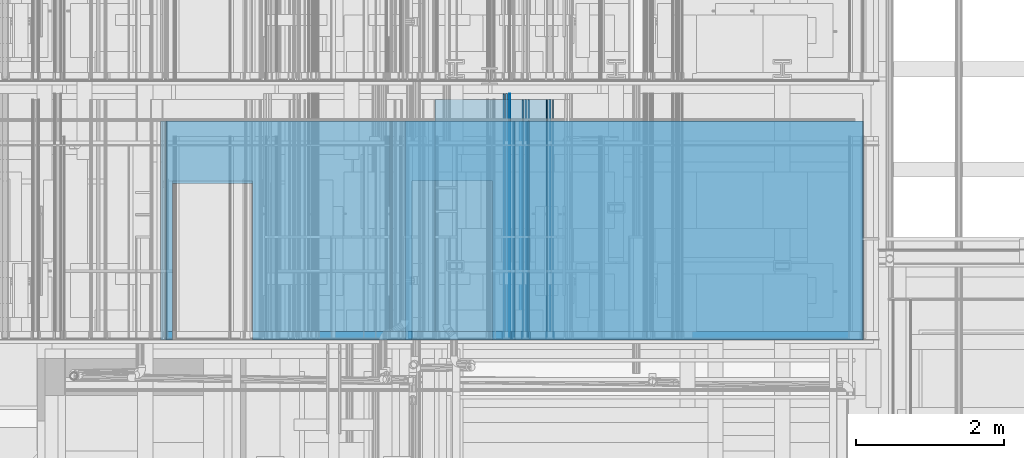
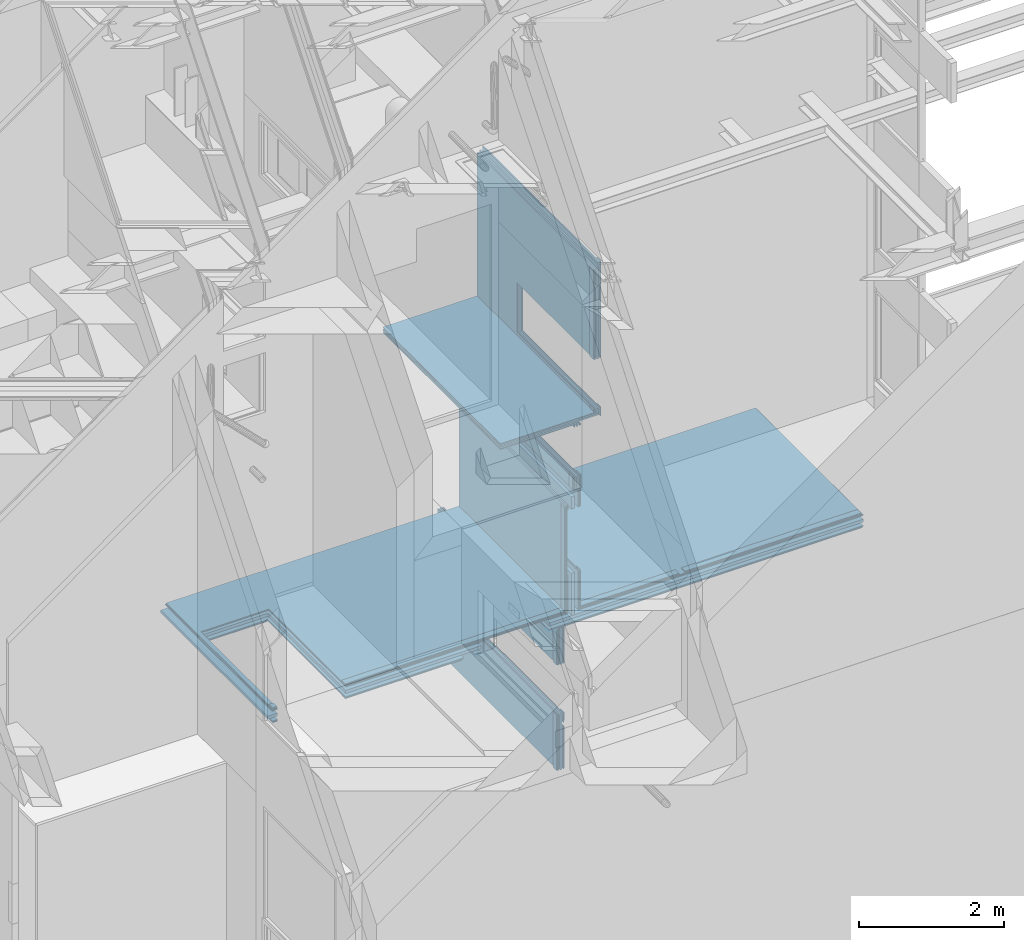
# One storey, part 99 of 583: 44 building element parts, 7 openings, 6 elements without a shape of their own.
"""IFC2X3 building model written with IfcOpenShell, lengths in metres."""

from ifc_helpers import new_model, entity, si_unit, converted_unit, derived_unit, money_unit, direction, frame, frame_2d, origin_with_axes, place, context, subcontext, project, spatial, polyline, rectangle, outline, extrude, material, type_object, element, aggregate, save


model = new_model("IFC2X3")

# Units and contexts
model_context = context("Model", 3, precision=1e-05, world=origin_with_axes(), true_north=direction((0.0, 1.0)))
body_context = subcontext(model_context, "Body", "Model", "MODEL_VIEW", scale=1.0)
ifc_project = project(units=[si_unit("LENGTHUNIT", "METRE"), si_unit("AREAUNIT", "SQUARE_METRE"), si_unit("VOLUMEUNIT", "CUBIC_METRE"), si_unit("ABSORBEDDOSEUNIT", "GRAY"), si_unit("AMOUNTOFSUBSTANCEUNIT", "MOLE"), si_unit("DOSEEQUIVALENTUNIT", "SIEVERT"), si_unit("ELECTRICCAPACITANCEUNIT", "FARAD"), si_unit("ELECTRICCHARGEUNIT", "COULOMB"), si_unit("ELECTRICCONDUCTANCEUNIT", "SIEMENS"), si_unit("ELECTRICCURRENTUNIT", "AMPERE"), si_unit("ELECTRICRESISTANCEUNIT", "OHM"), si_unit("ELECTRICVOLTAGEUNIT", "VOLT"), si_unit("ENERGYUNIT", "JOULE"), si_unit("FORCEUNIT", "NEWTON"), si_unit("FREQUENCYUNIT", "HERTZ"), si_unit("ILLUMINANCEUNIT", "LUX"), si_unit("INDUCTANCEUNIT", "HENRY"), si_unit("LUMINOUSFLUXUNIT", "LUMEN"), si_unit("LUMINOUSINTENSITYUNIT", "CANDELA"), si_unit("MAGNETICFLUXDENSITYUNIT", "TESLA"), si_unit("MAGNETICFLUXUNIT", "WEBER"), si_unit("MASSUNIT", "GRAM"), converted_unit("PLANEANGLEUNIT", "degree", entity("IfcReal", 0.0174532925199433), si_unit("PLANEANGLEUNIT", "RADIAN"), dimensions=[0, 0, 0, 0, 0, 0, 0]), si_unit("POWERUNIT", "WATT"), si_unit("PRESSUREUNIT", "PASCAL"), si_unit("RADIOACTIVITYUNIT", "BECQUEREL"), si_unit("SOLIDANGLEUNIT", "STERADIAN"), si_unit("THERMODYNAMICTEMPERATUREUNIT", "KELVIN"), si_unit("TIMEUNIT", "SECOND"), derived_unit("ACCELERATIONUNIT", [(si_unit("LENGTHUNIT", "METRE"), 1), (si_unit("TIMEUNIT", "SECOND"), -2)]), derived_unit("ANGULARVELOCITYUNIT", [(converted_unit("PLANEANGLEUNIT", "degree", entity("IfcReal", 0.0174532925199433), si_unit("PLANEANGLEUNIT", "RADIAN"), dimensions=[0, 0, 0, 0, 0, 0, 0]), 1), (si_unit("TIMEUNIT", "SECOND"), -1)]), derived_unit("CURVATUREUNIT", [(converted_unit("PLANEANGLEUNIT", "degree", entity("IfcReal", 0.0174532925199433), si_unit("PLANEANGLEUNIT", "RADIAN"), dimensions=[0, 0, 0, 0, 0, 0, 0]), 1), (si_unit("LENGTHUNIT", "METRE"), -1)]), derived_unit("DYNAMICVISCOSITYUNIT", [(si_unit("PRESSUREUNIT", "PASCAL"), 1), (si_unit("TIMEUNIT", "SECOND"), 1)]), derived_unit("HEATFLUXDENSITYUNIT", [(si_unit("POWERUNIT", "WATT"), 1), (si_unit("LENGTHUNIT", "METRE"), -2)]), derived_unit("HEATINGVALUEUNIT", [(si_unit("ENERGYUNIT", "JOULE"), 1), (si_unit("MASSUNIT", "GRAM"), -1)]), derived_unit("INTEGERCOUNTRATEUNIT", [(si_unit("TIMEUNIT", "SECOND"), -1)]), derived_unit("IONCONCENTRATIONUNIT", [(si_unit("MASSUNIT", "GRAM"), 1), (si_unit("VOLUMEUNIT", "CUBIC_METRE"), -1)]), derived_unit("ISOTHERMALMOISTURECAPACITYUNIT", [(si_unit("VOLUMEUNIT", "CUBIC_METRE"), 1), (si_unit("MASSUNIT", "GRAM"), -1)]), derived_unit("KINEMATICVISCOSITYUNIT", [(si_unit("AREAUNIT", "SQUARE_METRE"), 1), (si_unit("TIMEUNIT", "SECOND"), -1)]), derived_unit("LINEARFORCEUNIT", [(si_unit("FORCEUNIT", "NEWTON"), 1), (si_unit("LENGTHUNIT", "METRE"), -1)]), derived_unit("LINEARMOMENTUNIT", [(si_unit("FORCEUNIT", "NEWTON"), 1), (si_unit("LENGTHUNIT", "METRE"), -1)]), derived_unit("LINEARSTIFFNESSUNIT", [(si_unit("FORCEUNIT", "NEWTON"), 1), (si_unit("LENGTHUNIT", "METRE"), -1)]), derived_unit("LINEARVELOCITYUNIT", [(si_unit("LENGTHUNIT", "METRE"), 1), (si_unit("TIMEUNIT", "SECOND"), -1)]), derived_unit("LUMINOUSINTENSITYDISTRIBUTIONUNIT", [(si_unit("LUMINOUSINTENSITYUNIT", "CANDELA"), 1), (si_unit("LUMINOUSFLUXUNIT", "LUMEN"), -1)]), derived_unit("MASSDENSITYUNIT", [(si_unit("MASSUNIT", "GRAM"), 1), (si_unit("VOLUMEUNIT", "CUBIC_METRE"), -1)]), derived_unit("MASSFLOWRATEUNIT", [(si_unit("MASSUNIT", "GRAM"), 1), (si_unit("TIMEUNIT", "SECOND"), -1)]), derived_unit("MASSPERLENGTHUNIT", [(si_unit("MASSUNIT", "GRAM"), 1), (si_unit("LENGTHUNIT", "METRE"), -1)]), derived_unit("MODULUSOFELASTICITYUNIT", [(si_unit("FORCEUNIT", "NEWTON"), 1), (si_unit("AREAUNIT", "SQUARE_METRE"), -1)]), derived_unit("MODULUSOFLINEARSUBGRADEREACTIONUNIT", [(si_unit("FORCEUNIT", "NEWTON"), 1), (si_unit("LENGTHUNIT", "METRE"), -2)]), derived_unit("MODULUSOFROTATIONALSUBGRADEREACTIONUNIT", [(si_unit("FORCEUNIT", "NEWTON"), 1), (si_unit("LENGTHUNIT", "METRE"), 1)]), derived_unit("MODULUSOFSUBGRADEREACTIONUNIT", [(si_unit("FORCEUNIT", "NEWTON"), 1), (si_unit("VOLUMEUNIT", "CUBIC_METRE"), -1)]), derived_unit("MOISTUREDIFFUSIVITYUNIT", [(si_unit("VOLUMEUNIT", "CUBIC_METRE"), 1), (si_unit("TIMEUNIT", "SECOND"), -1)]), derived_unit("MOLECULARWEIGHTUNIT", [(si_unit("MASSUNIT", "GRAM"), 1), (si_unit("AMOUNTOFSUBSTANCEUNIT", "MOLE"), -1)]), derived_unit("PLANARFORCEUNIT", [(si_unit("FORCEUNIT", "NEWTON"), 1), (si_unit("LENGTHUNIT", "METRE"), -2)]), derived_unit("ROTATIONALFREQUENCYUNIT", [(si_unit("TIMEUNIT", "SECOND"), -1)]), derived_unit("ROTATIONALMASSUNIT", [(si_unit("MASSUNIT", "GRAM"), 1), (si_unit("LENGTHUNIT", "METRE"), 2)]), derived_unit("ROTATIONALSTIFFNESSUNIT", [(si_unit("FORCEUNIT", "NEWTON"), 1), (si_unit("LENGTHUNIT", "METRE"), 1), (converted_unit("PLANEANGLEUNIT", "degree", entity("IfcReal", 0.0174532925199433), si_unit("PLANEANGLEUNIT", "RADIAN"), dimensions=[0, 0, 0, 0, 0, 0, 0]), -1)]), derived_unit("SECTIONAREAINTEGRALUNIT", [(si_unit("LENGTHUNIT", "METRE"), 5)]), derived_unit("SECTIONMODULUSUNIT", [(si_unit("LENGTHUNIT", "METRE"), 3)]), derived_unit("SHEARMODULUSUNIT", [(si_unit("FORCEUNIT", "NEWTON"), 1), (si_unit("AREAUNIT", "SQUARE_METRE"), -1)]), derived_unit("SOUNDPOWERUNIT", [(si_unit("ENERGYUNIT", "JOULE"), 1), (si_unit("TIMEUNIT", "SECOND"), -1)]), derived_unit("SPECIFICHEATCAPACITYUNIT", [(si_unit("FORCEUNIT", "NEWTON"), 1), (si_unit("MASSUNIT", "GRAM"), -1), (si_unit("THERMODYNAMICTEMPERATUREUNIT", "KELVIN"), -1)]), derived_unit("TEMPERATUREGRADIENTUNIT", [(si_unit("THERMODYNAMICTEMPERATUREUNIT", "KELVIN"), 1), (si_unit("LENGTHUNIT", "METRE"), -1)]), derived_unit("THERMALADMITTANCEUNIT", [(si_unit("POWERUNIT", "WATT"), 1), (si_unit("AREAUNIT", "SQUARE_METRE"), -1), (si_unit("THERMODYNAMICTEMPERATUREUNIT", "KELVIN"), -1)]), derived_unit("THERMALCONDUCTANCEUNIT", [(si_unit("POWERUNIT", "WATT"), 1), (si_unit("LENGTHUNIT", "METRE"), -1), (si_unit("THERMODYNAMICTEMPERATUREUNIT", "KELVIN"), -1)]), derived_unit("THERMALEXPANSIONCOEFFICIENTUNIT", [(si_unit("THERMODYNAMICTEMPERATUREUNIT", "KELVIN"), -1)]), derived_unit("THERMALRESISTANCEUNIT", [(si_unit("AREAUNIT", "SQUARE_METRE"), 1), (si_unit("POWERUNIT", "WATT"), -1)]), derived_unit("THERMALTRANSMITTANCEUNIT", [(si_unit("POWERUNIT", "WATT"), 1), (si_unit("AREAUNIT", "SQUARE_METRE"), -1), (si_unit("THERMODYNAMICTEMPERATUREUNIT", "KELVIN"), -1)]), derived_unit("TORQUEUNIT", [(si_unit("FORCEUNIT", "NEWTON"), 1), (si_unit("LENGTHUNIT", "METRE"), 1)]), derived_unit("VAPORPERMEABILITYUNIT", [(si_unit("MASSUNIT", "GRAM"), 1), (si_unit("TIMEUNIT", "SECOND"), -1)]), derived_unit("VOLUMETRICFLOWRATEUNIT", [(si_unit("VOLUMEUNIT", "CUBIC_METRE"), 1), (si_unit("TIMEUNIT", "SECOND"), -1)]), derived_unit("WARPINGCONSTANTUNIT", [(si_unit("LENGTHUNIT", "METRE"), 6)]), derived_unit("WARPINGMOMENTUNIT", [(si_unit("FORCEUNIT", "NEWTON"), 1), (si_unit("LENGTHUNIT", "METRE"), 2)]), money_unit("GBP")], contexts=[model_context])

# Site, building, storey
site_placement = place(None, origin_with_axes())
site = spatial("IfcSite", under=ifc_project, at=site_placement, Name="Site", CompositionType="ELEMENT")
building_placement = place(site_placement, origin_with_axes())
building = spatial("IfcBuilding", under=site, at=building_placement, Name="Building01", CompositionType="ELEMENT")
storey_placement = place(building_placement, frame((0.0, 0.0, 20.78), z_axis=(0.0, 0.0, 1.0), x_axis=(1.0, 0.0, 0.0)))
storey = spatial("IfcBuildingStorey", under=building, at=storey_placement, Name="RL", CompositionType="ELEMENT", Elevation=20.78)

# Wall, opening, building element parts
wall_type_1 = type_object("IfcWallType", Name="SHE_A-Walls_Type05a_Partition_95mm_tall", PredefinedType="NOTDEFINED")
wall_1_placement = place(storey_placement, frame((10.355, 5.15, -10.326129), z_axis=(0.0, 1.0, 0.0), x_axis=(0.0, 0.0, 1.0)))
wall_1 = element("IfcWall", 1, at=wall_1_placement, inside=storey, type_object=wall_type_1, Name="5A", ObjectType="SHE_A-Walls_Type05a_Partition_95mm_tall")
opening_1_placement = place(wall_1_placement, frame((0.086065, -0.035, 0.0), z_axis=(0.0, 0.0, 1.0), x_axis=(1.0, 0.0, 0.0)))
element("IfcOpeningElement", 2, at=opening_1_placement, cuts=wall_1, Name="Opening", ObjectType="Opening", context=body_context, shape_type="SweptSolid", body=[
    extrude(rectangle(XDim=2.142, YDim=0.834, at=frame_2d((0.417, 1.071), x_axis=(0.0, -1.0))), frame((0.0, 4.622002, 0.0), z_axis=(0.0, -1.0, 0.0), x_axis=(1.0, 0.0, 0.0)), (0.0, 0.0, 1.0), 9.244005),
])
ifc_material_1 = material(Name="A_BSUK_Insulation")
placement_1 = place(wall_1_placement, origin_with_axes())
building_element_part_1 = element("IfcBuildingElementPart", 3, at=placement_1, material=ifc_material_1, Name="1", context=body_context, shape_type="SweptSolid", body=[
    extrude(rectangle(XDim=2.474714, YDim=0.025, at=frame_2d((1.237357, 0.0125), x_axis=(-1.0, 0.0))), origin_with_axes(), (0.0, 0.0, 1.0), 3.24),
])
ifc_material_2 = material(Name="A_BSUK_Walls_Timber")
building_element_part_2 = element("IfcBuildingElementPart", 4, at=placement_1, material=ifc_material_2, Name="2", context=body_context, shape_type="SweptSolid", body=[
    extrude(outline(polyline([(2.549714, 0.075), (-0.075, 0.075), (-0.06, 0.06), (2.534714, 0.06), (2.549714, 0.075)])), frame((0.0, 0.0, 0.015), z_axis=(0.0, 0.0, 1.0), x_axis=(1.0, 0.0, 0.0)), (0.0, 0.0, 1.0), 0.1),
])
building_element_part_3 = element("IfcBuildingElementPart", 5, at=placement_1, material=ifc_material_2, Name="3", context=body_context, shape_type="SweptSolid", body=[
    extrude(outline(polyline([(2.439714, -0.035), (0.035, -0.035), (0.05, -0.05), (2.424714, -0.05), (2.439714, -0.035)])), frame((0.0, 0.0, 0.015), z_axis=(0.0, 0.0, 1.0), x_axis=(1.0, 0.0, 0.0)), (0.0, 0.0, 1.0), 0.1),
])
ifc_material_3 = material(Name="A_BSUK_WallInternal_Finishes_Plasterboard")
building_element_part_4 = element("IfcBuildingElementPart", 6, at=placement_1, material=ifc_material_3, Name="4", context=body_context, shape_type="SweptSolid", body=[
    extrude(outline(polyline([(2.534714, 0.06), (-0.06, 0.06), (-0.048, 0.048), (2.522714, 0.048), (2.534714, 0.06)])), origin_with_axes(), (0.0, 0.0, 1.0), 3.24),
])
building_element_part_5 = element("IfcBuildingElementPart", 7, at=placement_1, material=ifc_material_3, Name="5", context=body_context, shape_type="SweptSolid", body=[
    extrude(outline(polyline([(2.451714, -0.023), (0.023, -0.023), (0.035, -0.035), (2.439714, -0.035), (2.451714, -0.023)])), origin_with_axes(), (0.0, 0.0, 1.0), 3.24),
])
aggregate(wall_1, [building_element_part_1, building_element_part_2, building_element_part_3, building_element_part_4, building_element_part_5])

# Wall, openings, building element parts
wall_type_2 = type_object("IfcWallType", Name="SHE_A-Walls_Type01c_Partywall_225mm_twin_tall", PredefinedType="NOTDEFINED")
wall_2_placement = place(storey_placement, frame((5.117, 5.15, -13.578331), z_axis=(0.0, 1.0, 0.0), x_axis=(1.0, 0.0, 0.0)))
wall_2 = element("IfcWall", 8, at=wall_2_placement, inside=storey, type_object=wall_type_2, Name="1C", ObjectType="SHE_A-Walls_Type01c_Partywall_225mm_twin_tall")
opening_2_placement = place(wall_2_placement, frame((0.157475, -0.225, -0.03), z_axis=(0.0, 0.0, 1.0), x_axis=(1.0, 0.0, 0.0)))
element("IfcOpeningElement", 9, at=opening_2_placement, cuts=wall_2, Name="Opening", ObjectType="Opening", context=body_context, shape_type="SweptSolid", body=[
    extrude(rectangle(XDim=1.084, YDim=2.142, at=frame_2d((-0.542, 1.071), x_axis=(-1.0, 0.0))), frame((0.0, -0.4125, 0.0), z_axis=(0.0, 1.0, 0.0), x_axis=(-1.0, 0.0, 0.0)), (0.0, 0.0, 1.0), 0.825),
])
opening_3_placement = place(wall_2_placement, frame((3.391704, 0.137, 0.0), z_axis=(0.0, 0.0, 1.0), x_axis=(1.0, 0.0, 0.0)))
element("IfcOpeningElement", 10, at=opening_3_placement, cuts=wall_2, Name="Opening", ObjectType="Opening", context=body_context, shape_type="SweptSolid", body=[
    extrude(rectangle(XDim=2.142, YDim=1.084, at=frame_2d((-0.542, 1.071), x_axis=(0.0, -1.0))), frame((0.0, -0.2055, 0.0), z_axis=(0.0, 1.0, 0.0), x_axis=(-1.0, 0.0, 0.0)), (0.0, 0.0, 1.0), 0.411),
])
opening_4_placement = place(wall_2_placement, frame((0.157475, 0.137, 0.0), z_axis=(0.0, 0.0, 1.0), x_axis=(1.0, 0.0, 0.0)))
element("IfcOpeningElement", 11, at=opening_4_placement, cuts=wall_2, Name="Opening", ObjectType="Opening", context=body_context, shape_type="SweptSolid", body=[
    extrude(rectangle(XDim=2.142, YDim=1.084, at=frame_2d((-0.542, 1.071), x_axis=(0.0, -1.0))), frame((0.0, -0.2055, 0.0), z_axis=(0.0, 1.0, 0.0), x_axis=(-1.0, 0.0, 0.0)), (0.0, 0.0, 1.0), 0.411),
])
placement_2 = place(wall_2_placement, origin_with_axes())
building_element_part_6 = element("IfcBuildingElementPart", 12, at=placement_2, material=ifc_material_1, Name="1", context=body_context, shape_type="SweptSolid", body=[
    extrude(rectangle(XDim=9.477, YDim=0.05, at=frame_2d((4.7385, 0.025), x_axis=(-1.0, 0.0))), origin_with_axes(), (0.0, 0.0, 1.0), 2.95),
])
building_element_part_7 = element("IfcBuildingElementPart", 13, at=placement_2, material=ifc_material_2, Name="2", context=body_context, shape_type="SweptSolid", body=[
    extrude(rectangle(XDim=1.906475, YDim=0.015, at=frame_2d((1.041238, 0.1445), x_axis=(-1.0, 0.0))), frame((0.0, 0.0, 0.015), z_axis=(0.0, 0.0, 1.0), x_axis=(1.0, 0.0, 0.0)), (0.0, 0.0, 1.0), 0.1),
])
building_element_part_8 = element("IfcBuildingElementPart", 14, at=placement_2, material=ifc_material_3, Name="3", context=body_context, shape_type="SweptSolid", body=[
    extrude(rectangle(XDim=3.00567, YDim=0.015, at=frame_2d((1.590835, 0.1295), x_axis=(-1.0, 0.0))), origin_with_axes(), (0.0, 0.0, 1.0), 2.95),
])
building_element_part_9 = element("IfcBuildingElementPart", 15, at=placement_2, material=ifc_material_3, Name="4", context=body_context, shape_type="SweptSolid", body=[
    extrude(outline(polyline([(3.10867, 0.122), (0.073, 0.122), (0.073, 0.107), (3.12367, 0.107), (3.10867, 0.122)])), origin_with_axes(), (0.0, 0.0, 1.0), 2.95),
])
building_element_part_10 = element("IfcBuildingElementPart", 16, at=placement_2, material=ifc_material_3, Name="5", context=body_context, shape_type="SweptSolid", body=[
    extrude(rectangle(XDim=4.702704, YDim=0.015, at=frame_2d((2.424352, -0.0655), x_axis=(-1.0, 0.0))), origin_with_axes(), (0.0, 0.0, 1.0), 2.95),
])
building_element_part_11 = element("IfcBuildingElementPart", 17, at=placement_2, material=ifc_material_3, Name="6", context=body_context, shape_type="SweptSolid", body=[
    extrude(rectangle(XDim=4.672704, YDim=0.015, at=frame_2d((2.424352, -0.0805), x_axis=(-1.0, 0.0))), origin_with_axes(), (0.0, 0.0, 1.0), 2.95),
])
building_element_part_12 = element("IfcBuildingElementPart", 18, at=placement_2, material=ifc_material_2, Name="7", context=body_context, shape_type="SweptSolid", body=[
    extrude(rectangle(XDim=4.657704, YDim=0.015, at=frame_2d((2.416852, -0.0955), x_axis=(-1.0, 0.0))), frame((0.0, 0.0, 0.015), z_axis=(0.0, 0.0, 1.0), x_axis=(1.0, 0.0, 0.0)), (0.0, 0.0, 1.0), 0.1),
])
building_element_part_13 = element("IfcBuildingElementPart", 19, at=placement_2, material=ifc_material_3, Name="8", context=body_context, shape_type="SweptSolid", body=[
    extrude(outline(polyline([(9.465, 0.137), (3.31867, 0.137), (3.30367, 0.122), (9.465, 0.122), (9.465, 0.137)])), origin_with_axes(), (0.0, 0.0, 1.0), 2.95),
])
building_element_part_14 = element("IfcBuildingElementPart", 20, at=placement_2, material=ifc_material_2, Name="9", context=body_context, shape_type="SweptSolid", body=[
    extrude(rectangle(XDim=1.27, YDim=0.015, at=frame_2d((3.96867, 0.1445), x_axis=(-1.0, 0.0))), frame((0.0, 0.0, 0.015), z_axis=(0.0, 0.0, 1.0), x_axis=(1.0, 0.0, 0.0)), (0.0, 0.0, 1.0), 0.1),
])
building_element_part_15 = element("IfcBuildingElementPart", 21, at=placement_2, material=ifc_material_3, Name="10", context=body_context, shape_type="SweptSolid", body=[
    extrude(outline(polyline([(9.477, 0.122), (3.30367, 0.122), (3.28867, 0.107), (9.477, 0.107), (9.477, 0.122)])), origin_with_axes(), (0.0, 0.0, 1.0), 2.95),
])
building_element_part_16 = element("IfcBuildingElementPart", 22, at=placement_2, material=ifc_material_2, Name="11", context=body_context, shape_type="SweptSolid", body=[
    extrude(rectangle(XDim=1.56542, YDim=0.015, at=frame_2d((5.768414, -0.0955), x_axis=(-1.0, 0.0))), frame((0.0, 0.0, 0.015), z_axis=(0.0, 0.0, 1.0), x_axis=(1.0, 0.0, 0.0)), (0.0, 0.0, 1.0), 0.1),
])
building_element_part_17 = element("IfcBuildingElementPart", 23, at=placement_2, material=ifc_material_3, Name="12", context=body_context, shape_type="SweptSolid", body=[
    extrude(rectangle(XDim=4.494296, YDim=0.015, at=frame_2d((7.217852, -0.0805), x_axis=(-1.0, 0.0))), origin_with_axes(), (0.0, 0.0, 1.0), 2.95),
])
building_element_part_18 = element("IfcBuildingElementPart", 24, at=placement_2, material=ifc_material_3, Name="13", context=body_context, shape_type="SweptSolid", body=[
    extrude(rectangle(XDim=4.521296, YDim=0.015, at=frame_2d((7.216352, -0.0655), x_axis=(-1.0, 0.0))), origin_with_axes(), (0.0, 0.0, 1.0), 2.95),
])
building_element_part_19 = element("IfcBuildingElementPart", 25, at=placement_2, material=ifc_material_2, Name="14", context=body_context, shape_type="SweptSolid", body=[
    extrude(rectangle(XDim=2.45633, YDim=0.015, at=frame_2d((8.221835, 0.1445), x_axis=(-1.0, 0.0))), frame((0.0, 0.0, 0.015), z_axis=(0.0, 0.0, 1.0), x_axis=(1.0, 0.0, 0.0)), (0.0, 0.0, 1.0), 0.1),
])
building_element_part_20 = element("IfcBuildingElementPart", 26, at=placement_2, material=ifc_material_2, Name="15", context=body_context, shape_type="SweptSolid", body=[
    extrude(rectangle(XDim=2.17, YDim=0.015, at=frame_2d((5.81367, 0.1445), x_axis=(-1.0, 0.0))), frame((0.0, 0.0, 0.015), z_axis=(0.0, 0.0, 1.0), x_axis=(1.0, 0.0, 0.0)), (0.0, 0.0, 1.0), 0.1),
])
building_element_part_21 = element("IfcBuildingElementPart", 27, at=placement_2, material=ifc_material_2, Name="16", context=body_context, shape_type="SweptSolid", body=[
    extrude(rectangle(XDim=1.004195, YDim=0.015, at=frame_2d((2.591572, 0.1445), x_axis=(-1.0, 0.0))), frame((0.0, 0.0, 0.015), z_axis=(0.0, 0.0, 1.0), x_axis=(1.0, 0.0, 0.0)), (0.0, 0.0, 1.0), 0.1),
])
building_element_part_22 = element("IfcBuildingElementPart", 28, at=placement_2, material=ifc_material_2, Name="17", context=body_context, shape_type="SweptSolid", body=[
    extrude(rectangle(XDim=2.803876, YDim=0.015, at=frame_2d((8.048062, -0.0955), x_axis=(-1.0, 0.0))), frame((0.0, 0.0, 0.015), z_axis=(0.0, 0.0, 1.0), x_axis=(1.0, 0.0, 0.0)), (0.0, 0.0, 1.0), 0.1),
])
aggregate(wall_2, [building_element_part_6, building_element_part_7, building_element_part_8, building_element_part_9, building_element_part_10, building_element_part_11, building_element_part_12, building_element_part_13, building_element_part_14, building_element_part_15, building_element_part_16, building_element_part_17, building_element_part_18, building_element_part_19, building_element_part_20, building_element_part_21, building_element_part_22])

# Wall, opening, building element parts
wall_3_placement = place(storey_placement, frame((9.949704, 5.15, -11.583), z_axis=(0.0, 1.0, 0.0), x_axis=(0.0, 0.0, -1.0)))
wall_3 = element("IfcWall", 29, at=wall_3_placement, inside=storey, type_object=wall_type_2, Name="1C", ObjectType="SHE_A-Walls_Type01c_Partywall_225mm_twin_tall")
opening_5_placement = place(wall_3_placement, frame((0.200331, -0.138, 0.0), z_axis=(0.0, 0.0, 1.0), x_axis=(1.0, 0.0, 0.0)))
element("IfcOpeningElement", 30, at=opening_5_placement, cuts=wall_3, Name="Opening", ObjectType="Opening", context=body_context, shape_type="SweptSolid", body=[
    extrude(rectangle(XDim=2.142, YDim=1.084, at=frame_2d((0.542, 1.071), x_axis=(0.0, -1.0))), frame((0.0, 0.207, 0.0), z_axis=(0.0, -1.0, 0.0), x_axis=(1.0, 0.0, 0.0)), (0.0, 0.0, 1.0), 0.414),
])
placement_3 = place(wall_3_placement, origin_with_axes())
building_element_part_23 = element("IfcBuildingElementPart", 31, at=placement_3, material=ifc_material_1, Name="1", context=body_context, shape_type="SweptSolid", body=[
    extrude(rectangle(XDim=1.995331, YDim=0.05, at=frame_2d((0.997666, -0.025), x_axis=(-1.0, 0.0))), origin_with_axes(), (0.0, 0.0, 1.0), 2.95),
])
building_element_part_24 = element("IfcBuildingElementPart", 32, at=placement_3, material=ifc_material_2, Name="2", context=body_context, shape_type="SweptSolid", body=[
    extrude(outline(polyline([(1.892331, 0.102), (0.152, 0.102), (0.137, 0.087), (1.892331, 0.087), (1.892331, 0.102)])), frame((0.0, 0.0, 0.015), z_axis=(0.0, 0.0, 1.0), x_axis=(1.0, 0.0, 0.0)), (0.0, 0.0, 1.0), 0.1),
])
building_element_part_25 = element("IfcBuildingElementPart", 33, at=placement_3, material=ifc_material_3, Name="3", context=body_context, shape_type="SweptSolid", body=[
    extrude(outline(polyline([(1.907331, 0.087), (0.137, 0.087), (0.122, 0.072), (1.907331, 0.072), (1.907331, 0.087)])), origin_with_axes(), (0.0, 0.0, 1.0), 2.95),
])
building_element_part_26 = element("IfcBuildingElementPart", 34, at=placement_3, material=ifc_material_3, Name="4", context=body_context, shape_type="SweptSolid", body=[
    extrude(outline(polyline([(1.922331, 0.072), (0.122, 0.072), (0.107, 0.057), (1.922331, 0.057), (1.922331, 0.072)])), origin_with_axes(), (0.0, 0.0, 1.0), 2.95),
])
building_element_part_27 = element("IfcBuildingElementPart", 35, at=placement_3, material=ifc_material_3, Name="5", context=body_context, shape_type="SweptSolid", body=[
    extrude(rectangle(XDim=2.010331, YDim=0.015, at=frame_2d((0.932166, -0.1155), x_axis=(-1.0, 0.0))), origin_with_axes(), (0.0, 0.0, 1.0), 2.95),
])
building_element_part_28 = element("IfcBuildingElementPart", 36, at=placement_3, material=ifc_material_3, Name="6", context=body_context, shape_type="SweptSolid", body=[
    extrude(rectangle(XDim=2.010331, YDim=0.015, at=frame_2d((0.917166, -0.1305), x_axis=(-1.0, 0.0))), origin_with_axes(), (0.0, 0.0, 1.0), 2.95),
])
building_element_part_29 = element("IfcBuildingElementPart", 37, at=placement_3, material=ifc_material_2, Name="7", context=body_context, shape_type="SweptSolid", body=[
    extrude(outline(polyline([(1.907331, -0.138), (-0.088, -0.138), (-0.103, -0.153), (1.907331, -0.153), (1.907331, -0.138)])), frame((0.0, 0.0, 0.015), z_axis=(0.0, 0.0, 1.0), x_axis=(1.0, 0.0, 0.0)), (0.0, 0.0, 1.0), 0.1),
])
aggregate(wall_3, [building_element_part_23, building_element_part_24, building_element_part_25, building_element_part_26, building_element_part_27, building_element_part_28, building_element_part_29])

wall_4_placement = place(storey_placement, frame((10.052704, 5.15, -10.351129), z_axis=(0.0, 1.0, 0.0), x_axis=(0.0, 0.0, -1.0)))
wall_4 = element("IfcWall", 38, at=wall_4_placement, inside=storey, type_object=wall_type_1, Name="5A", ObjectType="SHE_A-Walls_Type05a_Partition_95mm_tall")
opening_6_placement = place(wall_4_placement, frame((0.077, -0.035, 0.0), z_axis=(0.0, 0.0, 1.0), x_axis=(1.0, 0.0, 0.0)))
element("IfcOpeningElement", 39, at=opening_6_placement, cuts=wall_4, Name="Opening", ObjectType="Opening", context=body_context, shape_type="SweptSolid", body=[
    extrude(rectangle(XDim=2.142, YDim=0.834, at=frame_2d((0.417, 1.071), x_axis=(0.0, -1.0))), frame((0.0, 3.762218, 0.0), z_axis=(0.0, -1.0, 0.0), x_axis=(1.0, 0.0, 0.0)), (0.0, 0.0, 1.0), 7.524435),
])
placement_4 = place(wall_4_placement, origin_with_axes())
building_element_part_30 = element("IfcBuildingElementPart", 40, at=placement_4, material=ifc_material_1, Name="1", context=body_context, shape_type="SweptSolid", body=[
    extrude(rectangle(XDim=1.143871, YDim=0.025, at=frame_2d((0.571935, 0.0125), x_axis=(-1.0, 0.0))), origin_with_axes(), (0.0, 0.0, 1.0), 3.24),
])
building_element_part_31 = element("IfcBuildingElementPart", 41, at=placement_4, material=ifc_material_2, Name="2", context=body_context, shape_type="SweptSolid", body=[
    extrude(outline(polyline([(1.128871, 0.075), (0.25, 0.075), (0.235, 0.06), (1.128871, 0.06), (1.128871, 0.075)])), frame((0.0, 0.0, 0.015), z_axis=(0.0, 0.0, 1.0), x_axis=(1.0, 0.0, 0.0)), (0.0, 0.0, 1.0), 0.1),
])
building_element_part_32 = element("IfcBuildingElementPart", 42, at=placement_4, material=ifc_material_2, Name="3", context=body_context, shape_type="SweptSolid", body=[
    extrude(rectangle(XDim=0.015, YDim=1.093871, at=frame_2d((0.596935, -0.0425), x_axis=(0.0, -1.0))), frame((0.0, 0.0, 0.015), z_axis=(0.0, 0.0, 1.0), x_axis=(1.0, 0.0, 0.0)), (0.0, 0.0, 1.0), 0.1),
])
building_element_part_33 = element("IfcBuildingElementPart", 43, at=placement_4, material=ifc_material_3, Name="4", context=body_context, shape_type="SweptSolid", body=[
    extrude(rectangle(XDim=1.108871, YDim=0.012, at=frame_2d((0.589435, 0.054), x_axis=(-1.0, 0.0))), origin_with_axes(), (0.0, 0.0, 1.0), 3.24),
])
building_element_part_34 = element("IfcBuildingElementPart", 44, at=placement_4, material=ifc_material_3, Name="5", context=body_context, shape_type="SweptSolid", body=[
    extrude(rectangle(XDim=1.108871, YDim=0.012, at=frame_2d((0.589435, -0.029), x_axis=(-1.0, 0.0))), origin_with_axes(), (0.0, 0.0, 1.0), 3.24),
])
aggregate(wall_4, [building_element_part_30, building_element_part_31, building_element_part_32, building_element_part_33, building_element_part_34])

wall_5_placement = place(storey_placement, frame((9.79567, 5.15, -13.715331), z_axis=(0.0, 1.0, 0.0), x_axis=(0.0, 0.0, -1.0)))
wall_5 = element("IfcWall", 45, at=wall_5_placement, inside=storey, type_object=wall_type_1, Name="5A", ObjectType="SHE_A-Walls_Type05a_Partition_95mm_tall")
opening_7_placement = place(wall_5_placement, frame((0.624, 0.06, 0.0), z_axis=(0.0, 0.0, 1.0), x_axis=(1.0, 0.0, 0.0)))
element("IfcOpeningElement", 46, at=opening_7_placement, cuts=wall_5, Name="Opening", ObjectType="Opening", context=body_context, shape_type="SweptSolid", body=[
    extrude(rectangle(XDim=2.142, YDim=0.834, at=frame_2d((-0.417, 1.071), x_axis=(0.0, -1.0))), frame((0.0, -4.269658, 0.0), z_axis=(0.0, 1.0, 0.0), x_axis=(-1.0, 0.0, 0.0)), (0.0, 0.0, 1.0), 8.539316),
])
placement_5 = place(wall_5_placement, origin_with_axes())
building_element_part_35 = element("IfcBuildingElementPart", 47, at=placement_5, material=ifc_material_1, Name="1", context=body_context, shape_type="SweptSolid", body=[
    extrude(rectangle(XDim=2.395, YDim=0.025, at=frame_2d((1.1975, 0.0125), x_axis=(-1.0, 0.0))), origin_with_axes(), (0.0, 0.0, 1.0), 3.32),
])
building_element_part_36 = element("IfcBuildingElementPart", 48, at=placement_5, material=ifc_material_2, Name="2", context=body_context, shape_type="SweptSolid", body=[
    extrude(rectangle(XDim=2.395, YDim=0.015, at=frame_2d((1.1975, 0.0675), x_axis=(-1.0, 0.0))), frame((0.0, 0.0, 0.015), z_axis=(0.0, 0.0, 1.0), x_axis=(1.0, 0.0, 0.0)), (0.0, 0.0, 1.0), 0.1),
])
building_element_part_37 = element("IfcBuildingElementPart", 49, at=placement_5, material=ifc_material_2, Name="3", context=body_context, shape_type="SweptSolid", body=[
    extrude(rectangle(XDim=1.6, YDim=0.015, at=frame_2d((0.8, -0.0425), x_axis=(-1.0, 0.0))), frame((0.0, 0.0, 0.015), z_axis=(0.0, 0.0, 1.0), x_axis=(1.0, 0.0, 0.0)), (0.0, 0.0, 1.0), 0.1),
])
building_element_part_38 = element("IfcBuildingElementPart", 50, at=placement_5, material=ifc_material_2, Name="4", context=body_context, shape_type="SweptSolid", body=[
    extrude(rectangle(XDim=0.7, YDim=0.015, at=frame_2d((2.045, -0.0425), x_axis=(-1.0, 0.0))), frame((0.0, 0.0, 0.015), z_axis=(0.0, 0.0, 1.0), x_axis=(1.0, 0.0, 0.0)), (0.0, 0.0, 1.0), 0.1),
])
building_element_part_39 = element("IfcBuildingElementPart", 51, at=placement_5, material=ifc_material_3, Name="5", context=body_context, shape_type="SweptSolid", body=[
    extrude(rectangle(XDim=2.395, YDim=0.012, at=frame_2d((1.1975, 0.054), x_axis=(-1.0, 0.0))), origin_with_axes(), (0.0, 0.0, 1.0), 3.32),
])
building_element_part_40 = element("IfcBuildingElementPart", 52, at=placement_5, material=ifc_material_3, Name="6", context=body_context, shape_type="SweptSolid", body=[
    extrude(rectangle(XDim=1.612, YDim=0.012, at=frame_2d((0.806, -0.029), x_axis=(-1.0, 0.0))), origin_with_axes(), (0.0, 0.0, 1.0), 3.32),
])
building_element_part_41 = element("IfcBuildingElementPart", 53, at=placement_5, material=ifc_material_3, Name="7", context=body_context, shape_type="SweptSolid", body=[
    extrude(rectangle(XDim=0.712, YDim=0.012, at=frame_2d((2.039, -0.029), x_axis=(-1.0, 0.0))), origin_with_axes(), (0.0, 0.0, 1.0), 3.32),
])
aggregate(wall_5, [building_element_part_35, building_element_part_36, building_element_part_37, building_element_part_38, building_element_part_39, building_element_part_40, building_element_part_41])

# Wall, building element parts
wall_6_placement = place(storey_placement, frame((8.82, 5.15, -10.326129), z_axis=(0.0, 1.0, 0.0), x_axis=(1.0, 0.0, 0.0)))
wall_6 = element("IfcWall", 54, at=wall_6_placement, inside=storey, type_object=wall_type_1, Name="5A", ObjectType="SHE_A-Walls_Type05a_Partition_95mm_tall")
placement_6 = place(wall_6_placement, origin_with_axes())
building_element_part_42 = element("IfcBuildingElementPart", 55, at=placement_6, material=ifc_material_1, Name="1", context=body_context, shape_type="SweptSolid", body=[
    extrude(rectangle(XDim=1.56, YDim=0.025, at=frame_2d((0.78, 0.0125), x_axis=(-1.0, 0.0))), origin_with_axes(), (0.0, 0.0, 1.0), 3.24),
])
building_element_part_43 = element("IfcBuildingElementPart", 56, at=placement_6, material=ifc_material_3, Name="4", context=body_context, shape_type="SweptSolid", body=[
    extrude(rectangle(XDim=0.012, YDim=1.184704, at=frame_2d((0.592352, 0.054), x_axis=(0.0, -1.0))), origin_with_axes(), (0.0, 0.0, 1.0), 3.24),
])
building_element_part_44 = element("IfcBuildingElementPart", 57, at=placement_6, material=ifc_material_3, Name="5", context=body_context, shape_type="SweptSolid", body=[
    extrude(outline(polyline([(1.512, -0.023), (0.0, -0.023), (0.0, -0.035), (1.5, -0.035), (1.512, -0.023)])), origin_with_axes(), (0.0, 0.0, 1.0), 3.24),
])
aggregate(wall_6, [building_element_part_42, building_element_part_43, building_element_part_44])

save(model, "model.ifc")
